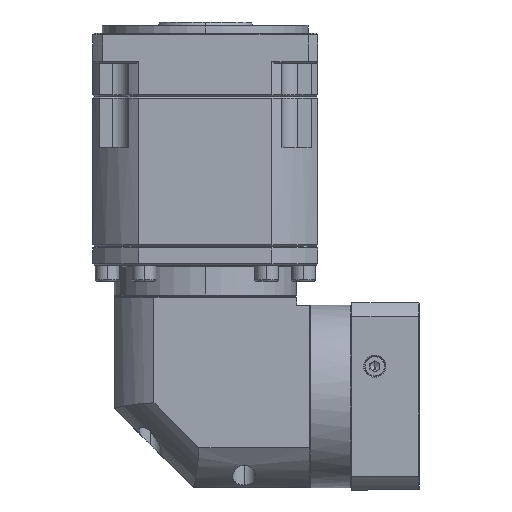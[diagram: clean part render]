
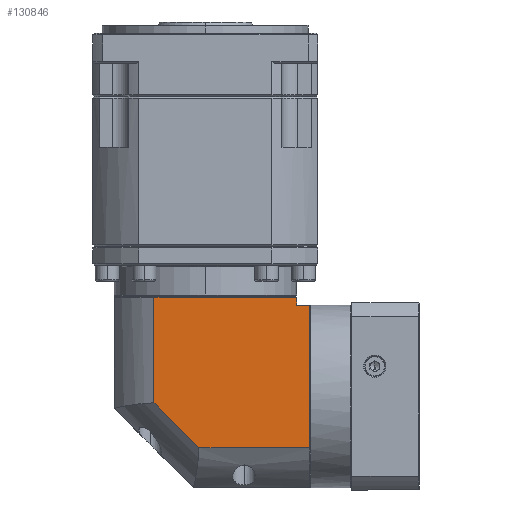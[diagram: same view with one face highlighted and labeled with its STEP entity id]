
A CAD part, left-side view. The second image highlights one B-rep face of the part: STEP entity #130846.
In plain terms, the highlighted planar face has unit normal (-1, 0, 0).
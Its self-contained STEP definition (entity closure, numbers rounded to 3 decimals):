
#3672 = LINE ( 'NONE', #36692, #8008 ) ;
#8008 = VECTOR ( 'NONE', #36108, 1000. ) ;
#14980 = ORIENTED_EDGE ( 'NONE', *, *, #28977, .T. ) ;
#15827 = ORIENTED_EDGE ( 'NONE', *, *, #45949, .F. ) ;
#17222 = DIRECTION ( 'NONE',  ( 0., 1., 0. ) ) ;
#20640 = LINE ( 'NONE', #108723, #84488 ) ;
#27559 = VERTEX_POINT ( 'NONE', #63102 ) ;
#28114 = ORIENTED_EDGE ( 'NONE', *, *, #37131, .F. ) ;
#28770 = LINE ( 'NONE', #123218, #41501 ) ;
#28977 = EDGE_CURVE ( 'NONE', #37719, #173421, #152268, .T. ) ;
#34477 = LINE ( 'NONE', #106859, #53534 ) ;
#36108 = DIRECTION ( 'NONE',  ( 0., -1., 0. ) ) ;
#36692 = CARTESIAN_POINT ( 'NONE',  ( -253.222, 38.124, 48.507 ) ) ;
#37131 = EDGE_CURVE ( 'NONE', #27559, #133053, #28770, .T. ) ;
#37719 = VERTEX_POINT ( 'NONE', #113464 ) ;
#40064 = VERTEX_POINT ( 'NONE', #141292 ) ;
#41501 = VECTOR ( 'NONE', #95789, 1000. ) ;
#45949 = EDGE_CURVE ( 'NONE', #40064, #27559, #163412, .T. ) ;
#53292 = PLANE ( 'NONE',  #96992 ) ;
#53534 = VECTOR ( 'NONE', #148053, 1000. ) ;
#57089 = CARTESIAN_POINT ( 'NONE',  ( -253.222, -76.876, 48.507 ) ) ;
#62286 = ORIENTED_EDGE ( 'NONE', *, *, #164636, .F. ) ;
#63102 = CARTESIAN_POINT ( 'NONE',  ( -253.222, 13.024, -18.054 ) ) ;
#66446 = DIRECTION ( 'NONE',  ( 1., 0., 0. ) ) ;
#69029 = VECTOR ( 'NONE', #152517, 1000. ) ;
#77815 = DIRECTION ( 'NONE',  ( 0., 1., 0. ) ) ;
#83144 = VERTEX_POINT ( 'NONE', #102963 ) ;
#84488 = VECTOR ( 'NONE', #133895, 1000. ) ;
#91586 = EDGE_CURVE ( 'NONE', #83144, #37719, #134843, .T. ) ;
#95789 = DIRECTION ( 'NONE',  ( 0., 0., 1. ) ) ;
#95965 = EDGE_CURVE ( 'NONE', #133053, #173421, #3672, .T. ) ;
#96992 = AXIS2_PLACEMENT_3D ( 'NONE', #105171, #66446, #77815 ) ;
#98722 = CARTESIAN_POINT ( 'NONE',  ( -253.222, -76.876, 43.507 ) ) ;
#102963 = CARTESIAN_POINT ( 'NONE',  ( -253.222, -85.276, 43.507 ) ) ;
#105171 = CARTESIAN_POINT ( 'NONE',  ( -253.222, 38.124, 55.007 ) ) ;
#105556 = CARTESIAN_POINT ( 'NONE',  ( -253.222, 13.024, 48.507 ) ) ;
#106859 = CARTESIAN_POINT ( 'NONE',  ( -253.222, -85.276, 55.007 ) ) ;
#108500 = EDGE_LOOP ( 'NONE', ( #28114, #15827, #120930, #62286, #176077, #14980, #161394 ) ) ;
#108723 = CARTESIAN_POINT ( 'NONE',  ( -253.222, 38.124, -46.393 ) ) ;
#113464 = CARTESIAN_POINT ( 'NONE',  ( -253.222, -76.876, 43.507 ) ) ;
#115194 = VERTEX_POINT ( 'NONE', #125281 ) ;
#120930 = ORIENTED_EDGE ( 'NONE', *, *, #172616, .F. ) ;
#123218 = CARTESIAN_POINT ( 'NONE',  ( -253.222, 13.024, 55.007 ) ) ;
#124512 = CARTESIAN_POINT ( 'NONE',  ( -253.222, -76.876, -71.493 ) ) ;
#125281 = CARTESIAN_POINT ( 'NONE',  ( -253.222, -85.276, -46.393 ) ) ;
#130846 = ADVANCED_FACE ( 'NONE', ( #171870 ), #53292, .F. ) ;
#133053 = VERTEX_POINT ( 'NONE', #105556 ) ;
#133895 = DIRECTION ( 'NONE',  ( 0., 1., 0. ) ) ;
#134843 = LINE ( 'NONE', #98722, #171181 ) ;
#141292 = CARTESIAN_POINT ( 'NONE',  ( -253.222, -15.314, -46.393 ) ) ;
#147608 = DIRECTION ( 'NONE',  ( 0., 0.707, 0.707 ) ) ;
#148053 = DIRECTION ( 'NONE',  ( 0., 0., -1. ) ) ;
#152268 = LINE ( 'NONE', #124512, #69029 ) ;
#152517 = DIRECTION ( 'NONE',  ( 0., 0., 1. ) ) ;
#152781 = VECTOR ( 'NONE', #147608, 1000. ) ;
#161394 = ORIENTED_EDGE ( 'NONE', *, *, #95965, .F. ) ;
#163412 = LINE ( 'NONE', #173962, #152781 ) ;
#164636 = EDGE_CURVE ( 'NONE', #83144, #115194, #34477, .T. ) ;
#171181 = VECTOR ( 'NONE', #17222, 1000. ) ;
#171870 = FACE_OUTER_BOUND ( 'NONE', #108500, .T. ) ;
#172616 = EDGE_CURVE ( 'NONE', #115194, #40064, #20640, .T. ) ;
#173421 = VERTEX_POINT ( 'NONE', #57089 ) ;
#173962 = CARTESIAN_POINT ( 'NONE',  ( -253.222, -15.314, -46.393 ) ) ;
#176077 = ORIENTED_EDGE ( 'NONE', *, *, #91586, .T. ) ;
